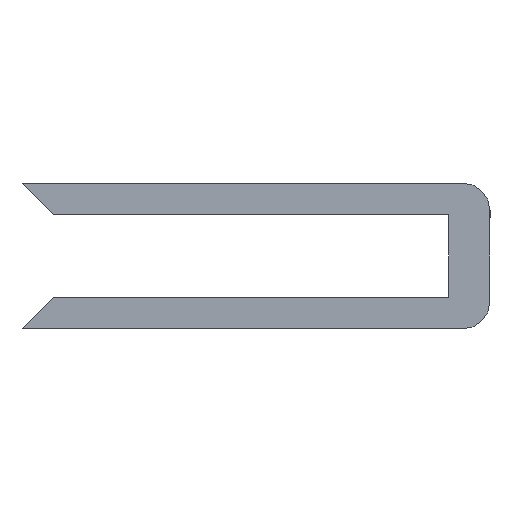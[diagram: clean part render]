
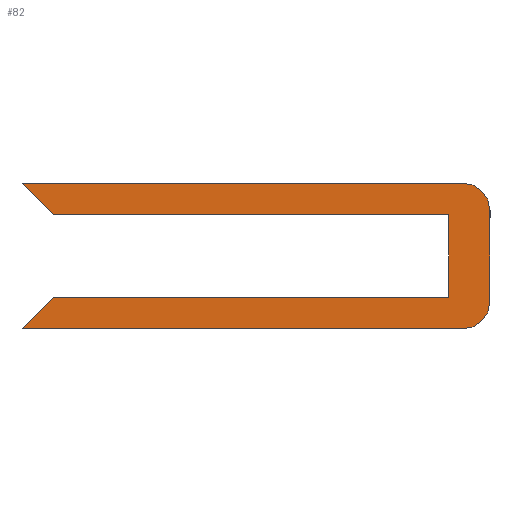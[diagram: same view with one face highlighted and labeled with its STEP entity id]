
A CAD part, left-side view. The second image highlights one B-rep face of the part: STEP entity #82.
In plain terms, the highlighted planar face has unit normal (-1, 0, 0).
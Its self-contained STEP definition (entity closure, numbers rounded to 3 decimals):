
#14 = LINE ( 'NONE', #375, #21 ) ;
#15 = LINE ( 'NONE', #233, #93 ) ;
#21 = VECTOR ( 'NONE', #372, 1000. ) ;
#23 = AXIS2_PLACEMENT_3D ( 'NONE', #353, #351, #349 ) ;
#27 = EDGE_CURVE ( 'NONE', #126, #165, #14, .T. ) ;
#29 = LINE ( 'NONE', #291, #381 ) ;
#30 = EDGE_CURVE ( 'NONE', #176, #342, #214, .T. ) ;
#33 = CARTESIAN_POINT ( 'NONE',  ( 0., 1., -1.65 ) ) ;
#37 = PLANE ( 'NONE',  #312 ) ;
#40 = VECTOR ( 'NONE', #306, 1000. ) ;
#45 = DIRECTION ( 'NONE',  ( 0., 0., -1. ) ) ;
#46 = DIRECTION ( 'NONE',  ( 1., 0., 0. ) ) ;
#47 = EDGE_LOOP ( 'NONE', ( #392, #186, #384, #278, #57, #173, #327, #258, #92, #169 ) ) ;
#49 = CARTESIAN_POINT ( 'NONE',  ( 0., 17., -2.65 ) ) ;
#57 = ORIENTED_EDGE ( 'NONE', *, *, #180, .F. ) ;
#60 = EDGE_CURVE ( 'NONE', #342, #239, #182, .T. ) ;
#63 = VERTEX_POINT ( 'NONE', #260 ) ;
#64 = EDGE_CURVE ( 'NONE', #239, #63, #228, .T. ) ;
#67 = CARTESIAN_POINT ( 'NONE',  ( 0., 1., -1.65 ) ) ;
#69 = VERTEX_POINT ( 'NONE', #122 ) ;
#77 = VECTOR ( 'NONE', #105, 1000. ) ;
#82 = ADVANCED_FACE ( 'NONE', ( #398 ), #37, .F. ) ;
#92 = ORIENTED_EDGE ( 'NONE', *, *, #30, .F. ) ;
#93 = VECTOR ( 'NONE', #226, 1000. ) ;
#105 = DIRECTION ( 'NONE',  ( 0., 0., -1. ) ) ;
#107 = CARTESIAN_POINT ( 'NONE',  ( 0., 1.5, -1.5 ) ) ;
#111 = EDGE_CURVE ( 'NONE', #63, #367, #261, .T. ) ;
#116 = EDGE_CURVE ( 'NONE', #69, #399, #338, .T. ) ;
#122 = CARTESIAN_POINT ( 'NONE',  ( 0., 15.85, -1.5 ) ) ;
#126 = VERTEX_POINT ( 'NONE', #284 ) ;
#128 = EDGE_CURVE ( 'NONE', #399, #183, #29, .T. ) ;
#138 = CARTESIAN_POINT ( 'NONE',  ( 0., 17., -2.65 ) ) ;
#156 = EDGE_CURVE ( 'NONE', #183, #126, #217, .T. ) ;
#164 = EDGE_CURVE ( 'NONE', #165, #176, #15, .T. ) ;
#165 = VERTEX_POINT ( 'NONE', #229 ) ;
#169 = ORIENTED_EDGE ( 'NONE', *, *, #164, .F. ) ;
#173 = ORIENTED_EDGE ( 'NONE', *, *, #111, .F. ) ;
#176 = VERTEX_POINT ( 'NONE', #209 ) ;
#180 = EDGE_CURVE ( 'NONE', #367, #69, #191, .T. ) ;
#182 = LINE ( 'NONE', #227, #77 ) ;
#183 = VERTEX_POINT ( 'NONE', #201 ) ;
#184 = CARTESIAN_POINT ( 'NONE',  ( 0., 0., 1.65 ) ) ;
#186 = ORIENTED_EDGE ( 'NONE', *, *, #156, .F. ) ;
#191 = LINE ( 'NONE', #203, #281 ) ;
#196 = CARTESIAN_POINT ( 'NONE',  ( 0., 0., -1.65 ) ) ;
#197 = DIRECTION ( 'NONE',  ( 0., -0.707, 0.707 ) ) ;
#201 = CARTESIAN_POINT ( 'NONE',  ( 0., 1.5, 1.5 ) ) ;
#203 = CARTESIAN_POINT ( 'NONE',  ( 0., 17., -2.65 ) ) ;
#209 = CARTESIAN_POINT ( 'NONE',  ( 0., 1., 2.65 ) ) ;
#214 = CIRCLE ( 'NONE', #23, 1. ) ;
#217 = LINE ( 'NONE', #237, #371 ) ;
#226 = DIRECTION ( 'NONE',  ( 0., -1., 0. ) ) ;
#227 = CARTESIAN_POINT ( 'NONE',  ( 0., 0., 1.65 ) ) ;
#228 = CIRCLE ( 'NONE', #379, 1. ) ;
#229 = CARTESIAN_POINT ( 'NONE',  ( 0., 17., 2.65 ) ) ;
#233 = CARTESIAN_POINT ( 'NONE',  ( 0., 17., 2.65 ) ) ;
#235 = DIRECTION ( 'NONE',  ( 0., 1., 0. ) ) ;
#237 = CARTESIAN_POINT ( 'NONE',  ( 0., 15.85, 1.5 ) ) ;
#239 = VERTEX_POINT ( 'NONE', #196 ) ;
#253 = VECTOR ( 'NONE', #311, 1000. ) ;
#258 = ORIENTED_EDGE ( 'NONE', *, *, #60, .F. ) ;
#260 = CARTESIAN_POINT ( 'NONE',  ( 0., 1., -2.65 ) ) ;
#261 = LINE ( 'NONE', #49, #253 ) ;
#275 = DIRECTION ( 'NONE',  ( 0., 0., 1. ) ) ;
#278 = ORIENTED_EDGE ( 'NONE', *, *, #116, .F. ) ;
#281 = VECTOR ( 'NONE', #197, 1000. ) ;
#284 = CARTESIAN_POINT ( 'NONE',  ( 0., 15.85, 1.5 ) ) ;
#291 = CARTESIAN_POINT ( 'NONE',  ( 0., 1.5, 1.5 ) ) ;
#306 = DIRECTION ( 'NONE',  ( 0., -1., 0. ) ) ;
#310 = CARTESIAN_POINT ( 'NONE',  ( 0., 15.85, -1.5 ) ) ;
#311 = DIRECTION ( 'NONE',  ( 0., 1., 0. ) ) ;
#312 = AXIS2_PLACEMENT_3D ( 'NONE', #33, #346, #340 ) ;
#327 = ORIENTED_EDGE ( 'NONE', *, *, #64, .F. ) ;
#338 = LINE ( 'NONE', #310, #40 ) ;
#340 = DIRECTION ( 'NONE',  ( 0., 0., -1. ) ) ;
#342 = VERTEX_POINT ( 'NONE', #184 ) ;
#346 = DIRECTION ( 'NONE',  ( 1., 0., 0. ) ) ;
#349 = DIRECTION ( 'NONE',  ( 0., 0., -1. ) ) ;
#351 = DIRECTION ( 'NONE',  ( 1., 0., 0. ) ) ;
#353 = CARTESIAN_POINT ( 'NONE',  ( 0., 1., 1.65 ) ) ;
#367 = VERTEX_POINT ( 'NONE', #138 ) ;
#371 = VECTOR ( 'NONE', #235, 1000. ) ;
#372 = DIRECTION ( 'NONE',  ( 0., 0.707, 0.707 ) ) ;
#375 = CARTESIAN_POINT ( 'NONE',  ( 0., 17., 2.65 ) ) ;
#379 = AXIS2_PLACEMENT_3D ( 'NONE', #67, #46, #45 ) ;
#381 = VECTOR ( 'NONE', #275, 1000. ) ;
#384 = ORIENTED_EDGE ( 'NONE', *, *, #128, .F. ) ;
#392 = ORIENTED_EDGE ( 'NONE', *, *, #27, .F. ) ;
#398 = FACE_OUTER_BOUND ( 'NONE', #47, .T. ) ;
#399 = VERTEX_POINT ( 'NONE', #107 ) ;
